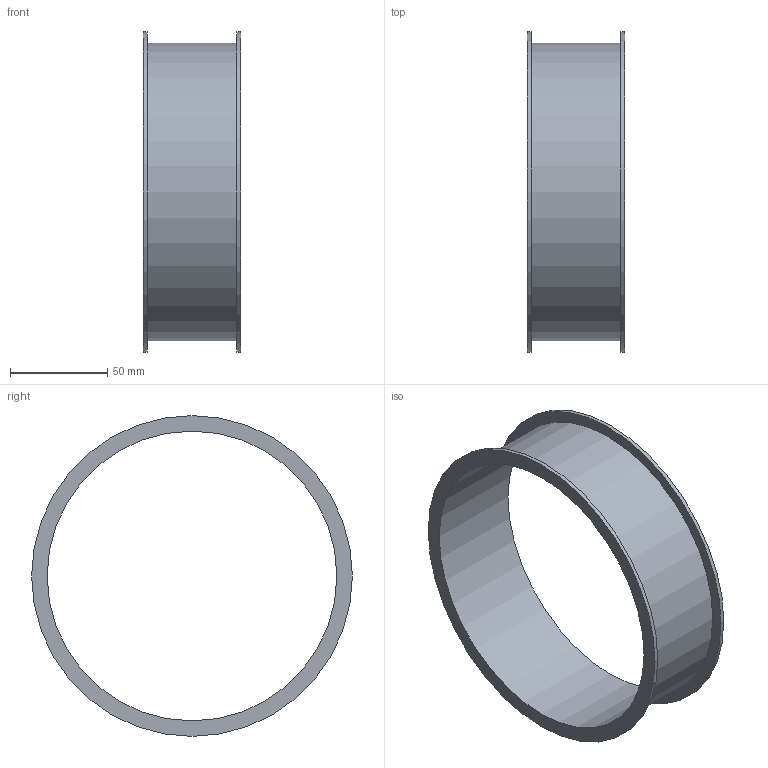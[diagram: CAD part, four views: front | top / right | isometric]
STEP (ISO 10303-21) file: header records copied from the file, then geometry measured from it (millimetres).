
FILE_DESCRIPTION((''),'2;1');
FILE_NAME('U:\Wolfgang\Marcel-3D\fertig\Kapitel 1\1521005.stp','2010-05-31T11:06:57',('TK2'),(''),'Autodesk Inventor 2010','Autodesk Inventor 2010','');
FILE_SCHEMA(('AUTOMOTIVE_DESIGN { 1 0 10303 214 1 1 1 1 }'));
Length unit declared in the file: millimetre
Products named in the file (1): 1521005
Bounding box: 50 x 165 x 165 mm (x, y, z)
Volume: 59426.4 mm3; surface area: 61474.7 mm2
Topology: 1 solids, 1 shells, 8 faces, 12 edges, 8 vertices
Faces by surface type: cylinder 4, plane 4
Full cylindrical faces by diameter (mm): 149 x1, 153 x1, 165 x2
Entity records: 194 total; most frequent: DIRECTION 34, CARTESIAN_POINT 25, AXIS2_PLACEMENT_3D 17, ORIENTED_EDGE 16, EDGE_LOOP 16, VERTEX_POINT 8, CIRCLE 8, EDGE_CURVE 8
